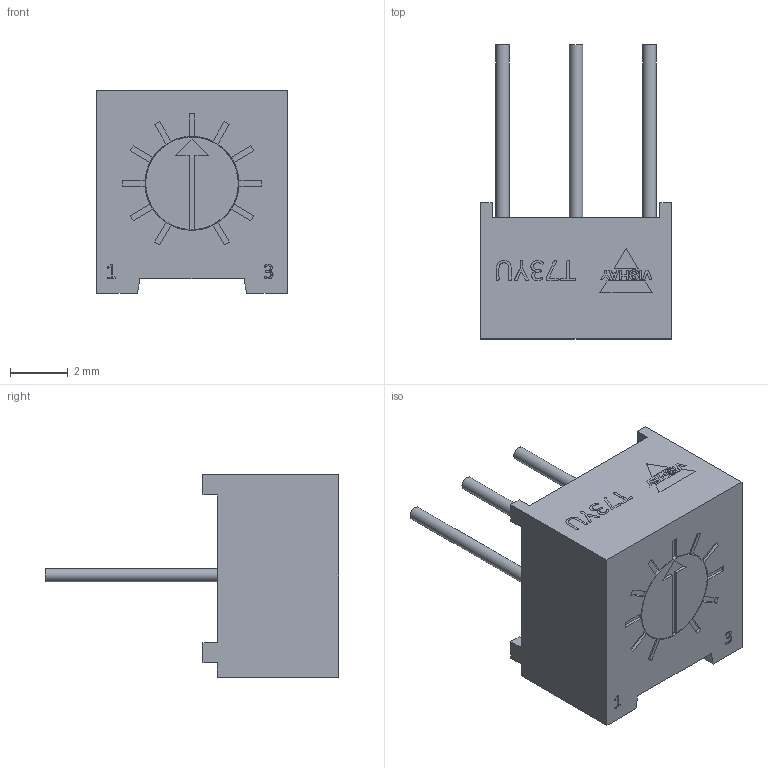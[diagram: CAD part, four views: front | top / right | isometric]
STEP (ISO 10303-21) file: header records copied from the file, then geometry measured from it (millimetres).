
FILE_DESCRIPTION(/* description */ ('Unknown'),/* implementation_level */ '2;1');
FILE_NAME(/* name */ 'T73YU-VISHAY',/* time_stamp */ '2018-05-28T13:34:31+02:00',/* author */ ('Unknown'),/* organization */ ('Unknown'),/* preprocessor_version */ 'ST-DEVELOPER v16.7',/* originating_system */ 'DEX',/* authorisation */ $);
FILE_SCHEMA (('AUTOMOTIVE_DESIGN {1 0 10303 214 3 1 1}'));
Length unit declared in the file: millimetre
Products named in the file (1): T73YU-VISHAY
Bounding box: 6.6 x 10.16 x 7 mm (x, y, z)
Volume: 189.2 mm3; surface area: 269.6 mm2
Topology: 1 solids, 1 shells, 188 faces, 484 edges, 319 vertices
Faces by surface type: plane 159, bspline 24, cylinder 5
Full cylindrical faces by diameter (mm): 0.46 x3, 3.2 x1, 3.25 x1
Entity records: 7758 total; most frequent: CARTESIAN_POINT 1995, ORIENTED_EDGE 954, DIRECTION 796, EDGE_CURVE 477, LINE 390, VECTOR 390, VERTEX_POINT 317, EDGE_LOOP 214
